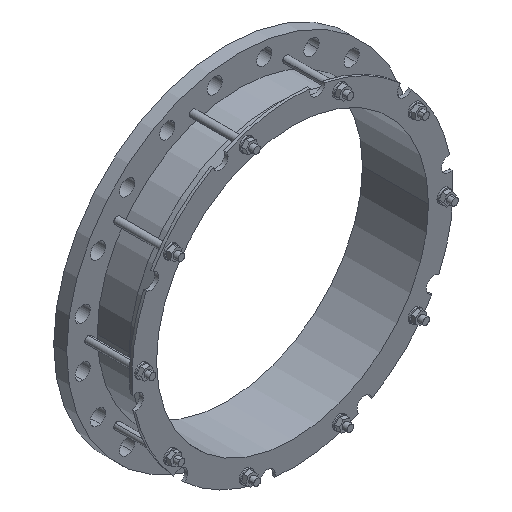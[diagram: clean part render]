
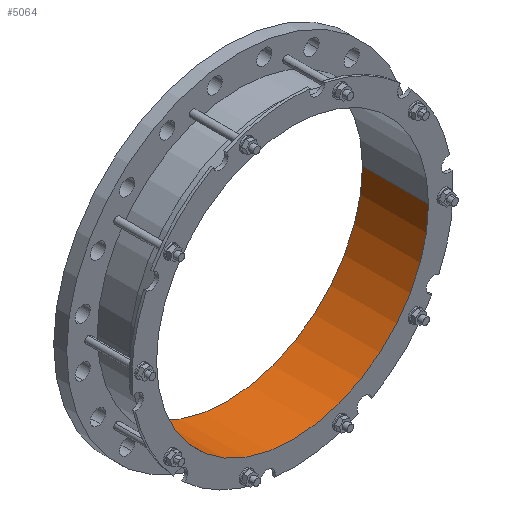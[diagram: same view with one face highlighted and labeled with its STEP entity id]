
A CAD part, isometric view. The second image highlights one B-rep face of the part: STEP entity #5064.
In plain terms, the highlighted cylindrical face has radius 242 mm (diameter 484 mm), a partial arc.
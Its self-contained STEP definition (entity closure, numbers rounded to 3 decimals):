
#7=CARTESIAN_POINT('',(0.,23.,0.));
#8=DIRECTION('',(0.,1.,0.));
#9=DIRECTION('',(1.,0.,0.));
#10=AXIS2_PLACEMENT_3D('',#7,#8,#9);
#1137=CARTESIAN_POINT('',(0.,-94.452,0.));
#1138=DIRECTION('',(0.,1.,0.));
#1139=DIRECTION('',(1.,0.,0.));
#1140=AXIS2_PLACEMENT_3D('',#1137,#1138,#1139);
#1142=DIRECTION('',(0.,1.,0.));
#1143=VECTOR('',#1142,117.452);
#1144=CARTESIAN_POINT('',(242.,-94.452,0.));
#1145=LINE('',#1144,#1143);
#1146=DIRECTION('',(0.,1.,0.));
#1147=VECTOR('',#1146,117.452);
#1148=CARTESIAN_POINT('',(-242.,-94.452,0.));
#1149=LINE('',#1148,#1147);
#3562=CARTESIAN_POINT('',(242.,-94.452,0.));
#3563=CARTESIAN_POINT('',(242.,23.,0.));
#3564=VERTEX_POINT('',#3562);
#3565=VERTEX_POINT('',#3563);
#3570=CARTESIAN_POINT('',(-242.,-94.452,0.));
#3571=CARTESIAN_POINT('',(-242.,23.,0.));
#3572=VERTEX_POINT('',#3570);
#3573=VERTEX_POINT('',#3571);
#5051=CARTESIAN_POINT('',(0.,-100.325,0.));
#5052=DIRECTION('',(0.,1.,0.));
#5053=DIRECTION('',(-1.,0.,0.));
#5054=AXIS2_PLACEMENT_3D('',#5051,#5052,#5053);
#5055=CYLINDRICAL_SURFACE('',#5054,242.);
#5057=ORIENTED_EDGE('',*,*,#5056,.F.);
#5058=ORIENTED_EDGE('',*,*,#5044,.T.);
#5060=ORIENTED_EDGE('',*,*,#5059,.T.);
#5061=ORIENTED_EDGE('',*,*,#4351,.F.);
#5062=EDGE_LOOP('',(#5057,#5058,#5060,#5061));
#5063=FACE_OUTER_BOUND('',#5062,.F.);
#5064=ADVANCED_FACE('',(#5063),#5055,.F.);
#11=CIRCLE('',#10,242.);
#1141=CIRCLE('',#1140,242.);
#4351=EDGE_CURVE('',#3565,#3573,#11,.T.);
#5044=EDGE_CURVE('',#3564,#3572,#1141,.T.);
#5056=EDGE_CURVE('',#3564,#3565,#1145,.T.);
#5059=EDGE_CURVE('',#3572,#3573,#1149,.T.);
